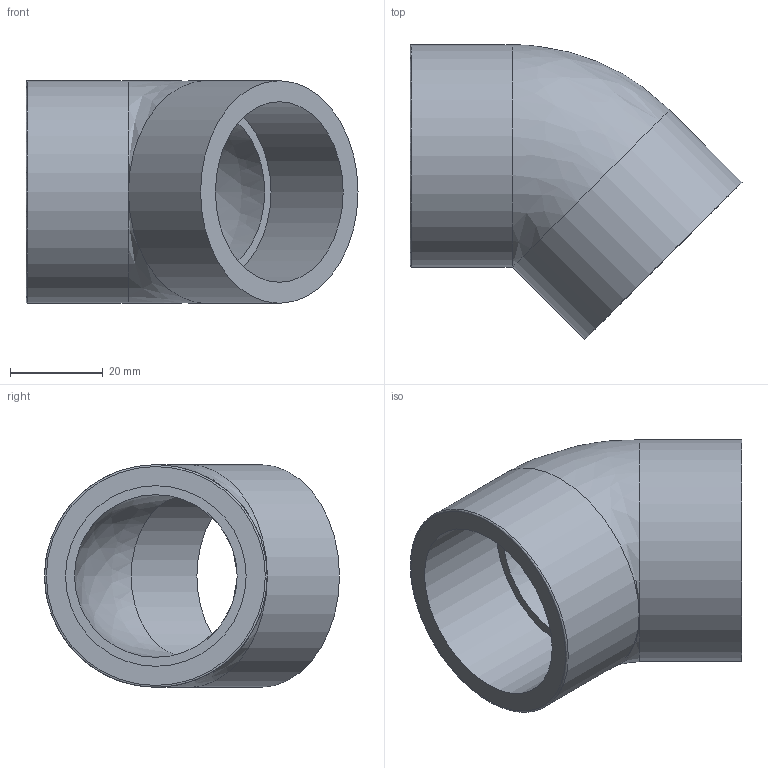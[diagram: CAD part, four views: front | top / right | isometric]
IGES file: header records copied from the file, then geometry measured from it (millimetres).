
Global section: file name: 054501013.ipt; native system: Autodesk Inventor 2015; preprocessor: unknown; author: KIM; date: 20180927.115400; units: millimetre
Bounding box: 71.6 x 63.6 x 48 mm (x, y, z)
Volume: 43192.2 mm3; surface area: 18630.3 mm2
Topology: 1 solids, 1 shells, 11 faces, 25 edges, 18 vertices
Faces by surface type: revolution 5, plane 4, cylinder 2
Full cylindrical faces by diameter (mm): 48 x2
